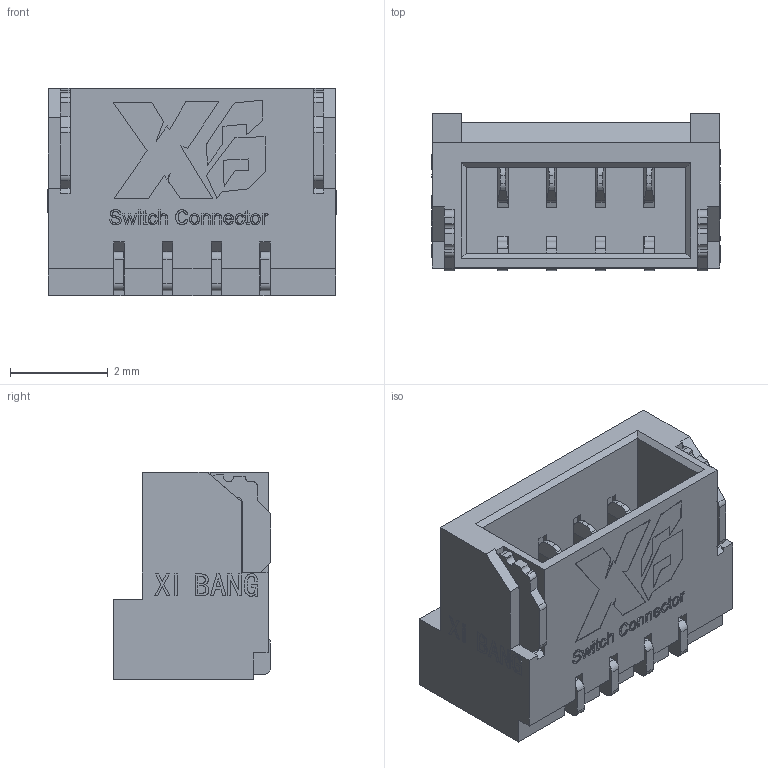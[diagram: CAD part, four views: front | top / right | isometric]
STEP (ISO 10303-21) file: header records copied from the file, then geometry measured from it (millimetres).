
FILE_DESCRIPTION((''),'2;1');
FILE_NAME('XB-X10-CI1404M1HRE-NH_ASM','2024-08-23T08:40:06',('Admin'),(''),'CREO PARAMETRIC BY PTC INC, 2022073','CREO PARAMETRIC BY PTC INC, 2022073','');
FILE_SCHEMA(('CONFIG_CONTROL_DESIGN'));
Length unit declared in the file: millimetre
Products named in the file (5): K-1-SOLID1_1_20; _1_1_20001; _1-SOLID2_1_20; CI1404PM1HRE-00_ASM; XB-X10-CI1404M1HRE-NH_ASM
Assembly tree (4 placements, depth 3):
  XB-X10-CI1404M1HRE-NH_ASM
    CI1404PM1HRE-00_ASM
      K-1-SOLID1_1_20
      _1_1_20001
      _1-SOLID2_1_20
Bounding box: 5.92 x 3.24 x 4.25 mm (x, y, z)
Volume: 41.7 mm3; surface area: 199.5 mm2
Topology: 3 solids, 3 shells, 742 faces, 2070 edges, 1364 vertices
Faces by surface type: plane 465, extrusion 179, cylinder 98
Entity records: 25287 total; most frequent: CARTESIAN_POINT 6635, ORIENTED_EDGE 4140, DIRECTION 3207, EDGE_CURVE 2070, VECTOR 1695, LINE 1516, VERTEX_POINT 1364, EDGE_LOOP 788
